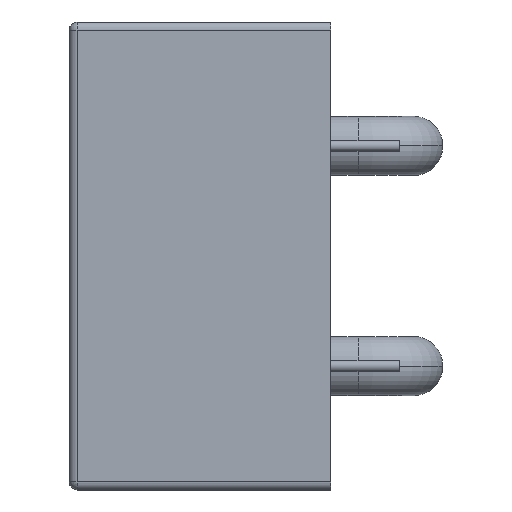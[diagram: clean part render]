
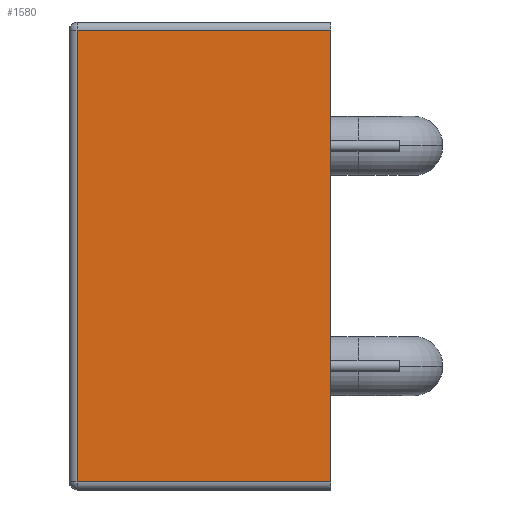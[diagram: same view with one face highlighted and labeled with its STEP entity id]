
A CAD part, left-side view. The second image highlights one B-rep face of the part: STEP entity #1580.
In plain terms, the highlighted planar face has unit normal (-1, 0, 0).
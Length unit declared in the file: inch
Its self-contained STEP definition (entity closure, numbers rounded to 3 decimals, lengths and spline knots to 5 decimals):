
#60 = LINE ( 'NONE', #1310, #1810 ) ;
#101 = DIRECTION ( 'NONE',  ( 0., 0., 1. ) ) ;
#175 = CARTESIAN_POINT ( 'NONE',  ( -1.4, 0.95, -0.85 ) ) ;
#237 = CARTESIAN_POINT ( 'NONE',  ( -1.4, 0., -0.85 ) ) ;
#238 = CARTESIAN_POINT ( 'NONE',  ( -1.4, 0.95, -0.82 ) ) ;
#297 = DIRECTION ( 'NONE',  ( 1., 0., 0. ) ) ;
#309 = ORIENTED_EDGE ( 'NONE', *, *, #1387, .T. ) ;
#346 = FACE_OUTER_BOUND ( 'NONE', #1342, .T. ) ;
#406 = LINE ( 'NONE', #1816, #1519 ) ;
#434 = LINE ( 'NONE', #238, #1060 ) ;
#447 = EDGE_CURVE ( 'NONE', #1409, #775, #434, .T. ) ;
#448 = DIRECTION ( 'NONE',  ( 0., 0., -1. ) ) ;
#479 = CARTESIAN_POINT ( 'NONE',  ( -1.4, 0., 0.82 ) ) ;
#508 = ORIENTED_EDGE ( 'NONE', *, *, #447, .T. ) ;
#549 = DIRECTION ( 'NONE',  ( 0., -1., 0. ) ) ;
#681 = EDGE_CURVE ( 'NONE', #1176, #1408, #60, .T. ) ;
#712 = CARTESIAN_POINT ( 'NONE',  ( -1.4, 0.92, -0.82 ) ) ;
#740 = AXIS2_PLACEMENT_3D ( 'NONE', #175, #297, #1616 ) ;
#775 = VERTEX_POINT ( 'NONE', #1211 ) ;
#812 = VECTOR ( 'NONE', #101, 39.37008 ) ;
#941 = ORIENTED_EDGE ( 'NONE', *, *, #1068, .T. ) ;
#1060 = VECTOR ( 'NONE', #549, 39.37008 ) ;
#1068 = EDGE_CURVE ( 'NONE', #1408, #1409, #406, .T. ) ;
#1176 = VERTEX_POINT ( 'NONE', #479 ) ;
#1188 = DIRECTION ( 'NONE',  ( 0., 1., 0. ) ) ;
#1211 = CARTESIAN_POINT ( 'NONE',  ( -1.4, 0., -0.82 ) ) ;
#1276 = CARTESIAN_POINT ( 'NONE',  ( -1.4, 0.92, 0.82 ) ) ;
#1310 = CARTESIAN_POINT ( 'NONE',  ( -1.4, 0.95, 0.82 ) ) ;
#1342 = EDGE_LOOP ( 'NONE', ( #941, #508, #309, #1661 ) ) ;
#1387 = EDGE_CURVE ( 'NONE', #775, #1176, #1441, .T. ) ;
#1408 = VERTEX_POINT ( 'NONE', #1276 ) ;
#1409 = VERTEX_POINT ( 'NONE', #712 ) ;
#1441 = LINE ( 'NONE', #237, #812 ) ;
#1460 = PLANE ( 'NONE',  #740 ) ;
#1519 = VECTOR ( 'NONE', #448, 39.37008 ) ;
#1580 = ADVANCED_FACE ( 'NONE', ( #346 ), #1460, .F. ) ;
#1616 = DIRECTION ( 'NONE',  ( 0., 0., -1. ) ) ;
#1661 = ORIENTED_EDGE ( 'NONE', *, *, #681, .T. ) ;
#1810 = VECTOR ( 'NONE', #1188, 39.37008 ) ;
#1816 = CARTESIAN_POINT ( 'NONE',  ( -1.4, 0.92, -0.85 ) ) ;
